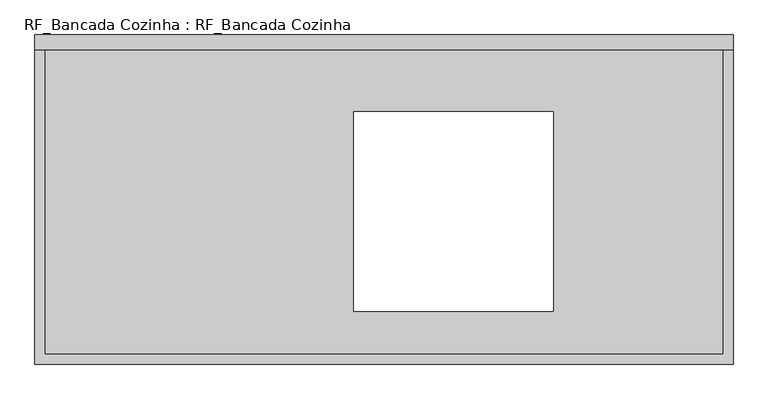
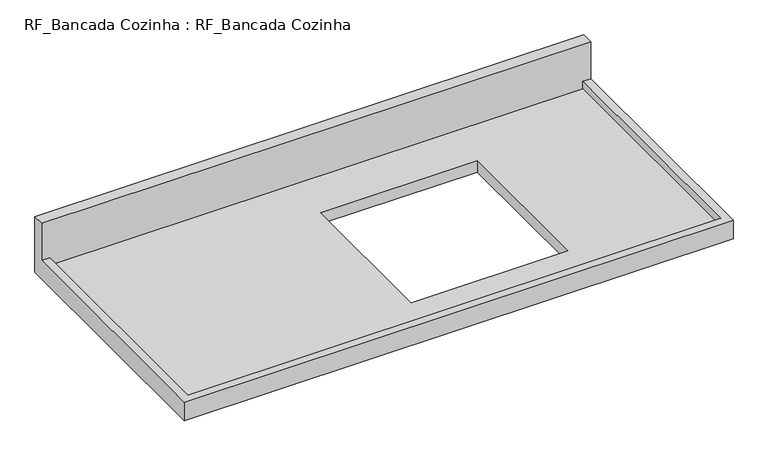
"""IFC4 building model written with IfcOpenShell, lengths in millimetres: proxy geometry, RF_Bancada Cozinha : RF_Bancada Cozinha."""

from ifc_helpers import new_model, si_unit, origin, place, context, project, spatial, faceted_brep, source, transform, mapped, element, save


def rf_bancada_cozinha_rf_bancada_cozinha_2d60196a(model_context):
    return source(origin(), model_context, "Body", "Brep", [
        faceted_brep([(1400.0, 0.0, 150.0), (1400.0, -30.0, 150.0), (1400.0, -30.0, 50.0), (1400.0, -660.0, 50.0), (1400.0, -660.0, 0.0), (1400.0, 0.0, 0.0), (0.0, 0.0, 150.0), (0.0, 0.0, 0.0), (0.0, -660.0, 0.0), (0.0, -660.0, 50.0), (0.0, -30.0, 50.0), (0.0, -30.0, 150.0), (20.0, -30.0, 50.0), (20.0, -30.0, 30.0), (1380.0, -30.0, 30.0), (1380.0, -30.0, 50.0), (1380.0, -640.0, 50.0), (20.0, -640.0, 50.0), (639.5, -154.3, 0.0), (639.5, -554.3, 0.0), (1039.5, -554.3, 0.0), (1039.5, -154.3, 0.0), (20.0, -640.0, 30.0), (1380.0, -640.0, 30.0), (639.5, -554.3, 30.0), (639.5, -154.3, 30.0), (1039.5, -154.3, 30.0), (1039.5, -554.3, 30.0)], [[[0, 1, 2, 3, 4, 5]], [[6, 7, 8, 9, 10, 11]], [[1, 0, 6, 11]], [[2, 1, 11, 10, 12, 13, 14, 15]], [[3, 2, 15, 16, 17, 12, 10, 9]], [[4, 3, 9, 8]], [[5, 4, 8, 7], [18, 19, 20, 21]], [[0, 5, 7, 6]], [[14, 13, 22, 23], [24, 25, 26, 27]], [[14, 23, 16, 15]], [[23, 22, 17, 16]], [[22, 13, 12, 17]], [[24, 19, 18, 25]], [[25, 18, 21, 26]], [[26, 21, 20, 27]], [[19, 24, 27, 20]]]),
    ])


if __name__ == "__main__":
    model = new_model("IFC4")
    model_context = context("Model", 3, world=origin())
    ifc_project = project(units=[si_unit("LENGTHUNIT", "METRE", prefix="MILLI")], contexts=[model_context])
    site = spatial("IfcSite", under=ifc_project)
    building = spatial("IfcBuilding", under=site)
    placement = place(None, origin())
    rf_bancada_cozinha_rf_bancada_cozinha_shape = rf_bancada_cozinha_rf_bancada_cozinha_2d60196a(model_context)
    element("IfcBuildingElementProxy", 1, Name="RF_Bancada Cozinha : RF_Bancada Cozinha", ObjectType="RF_Bancada Cozinha : RF_Bancada Cozinha", at=placement, inside=building, context=model_context, shape_type="MappedRepresentation", body=[
        mapped(rf_bancada_cozinha_rf_bancada_cozinha_shape, transform((0.0, 0.0, 0.0), x_axis=(1.0, 0.0, 0.0), y_axis=(0.0, 1.0, 0.0), z_axis=(0.0, 0.0, 1.0))),
    ])
    save(model, "model.ifc")
